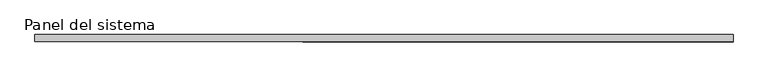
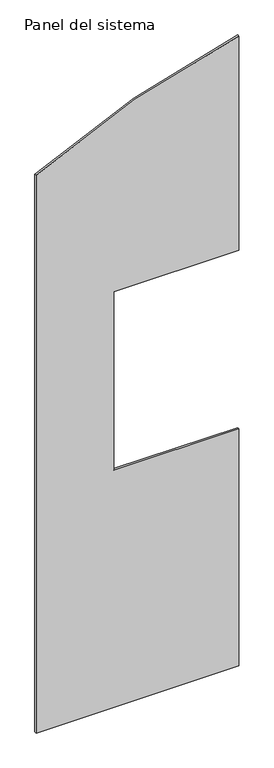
"""IFC4 building model written with IfcOpenShell, lengths in millimetres: plate geometry, Panel del sistema : HIANSA PANEL - PANELES DE CUBIERTA SIN TAPAJUNTA - EASY AGRO 5GR - Esp. 10mm."""

from ifc_helpers import new_model, si_unit, point, frame, frame_2d, origin, place, context, project, spatial, polyline, circle_curve, trimmed, segment, composite_curve, outline, extrude, source, transform, mapped, element, save


def panel_del_sistema_8b82735a(model_context):
    return source(origin(), model_context, "Body", "SweptSolid", [
        extrude(outline(composite_curve([segment(polyline([(0.0, -500.0000002), (0.0, 500.0000002), (1235.7994909, 500.0000002), (1235.7994909, -116.4834635), (2165.9777068, -116.4834635), (2165.9777068, 500.0000002), (3281.6986503, 500.0000002)]), True, "CONTINUOUS"), segment(trimmed(circle_curve(frame_2d((-233.0990651, 1249.9999998)), 3593.9258451), [point((3281.6986503, 500.0000002))], [point((2905.9777068, -500.0000002))], False, "CARTESIAN"), True, "CONTINUOUS"), segment(polyline([(2905.9777068, -500.0000002), (0.0, -500.0000002)]), True, "CONTINUOUS")], self_intersect=False)), frame((0.0, 0.0, 0.0), z_axis=(0.0, 1.0, 0.0), x_axis=(0.0, 0.0, 1.0)), (0.0, 0.0, 1.0), 10.0),
    ])


if __name__ == "__main__":
    model = new_model("IFC4")
    model_context = context("Model", 3, world=origin())
    ifc_project = project(units=[si_unit("LENGTHUNIT", "METRE", prefix="MILLI")], contexts=[model_context])
    site = spatial("IfcSite", under=ifc_project)
    building = spatial("IfcBuilding", under=site)
    placement = place(None, origin())
    panel_del_sistema_shape = panel_del_sistema_8b82735a(model_context)
    element("IfcPlate", 1, ObjectType="Panel del sistema : HIANSA PANEL - PANELES DE CUBIERTA SIN TAPAJUNTA - EASY AGRO 5GR - Esp. 10mm", at=placement, inside=building, context=model_context, shape_type="MappedRepresentation", body=[
        mapped(panel_del_sistema_shape, transform((0.0, 0.0, 0.0), x_axis=(1.0, 0.0, 0.0), y_axis=(0.0, 1.0, 0.0), z_axis=(0.0, 0.0, 1.0))),
    ])
    save(model, "model.ifc")
